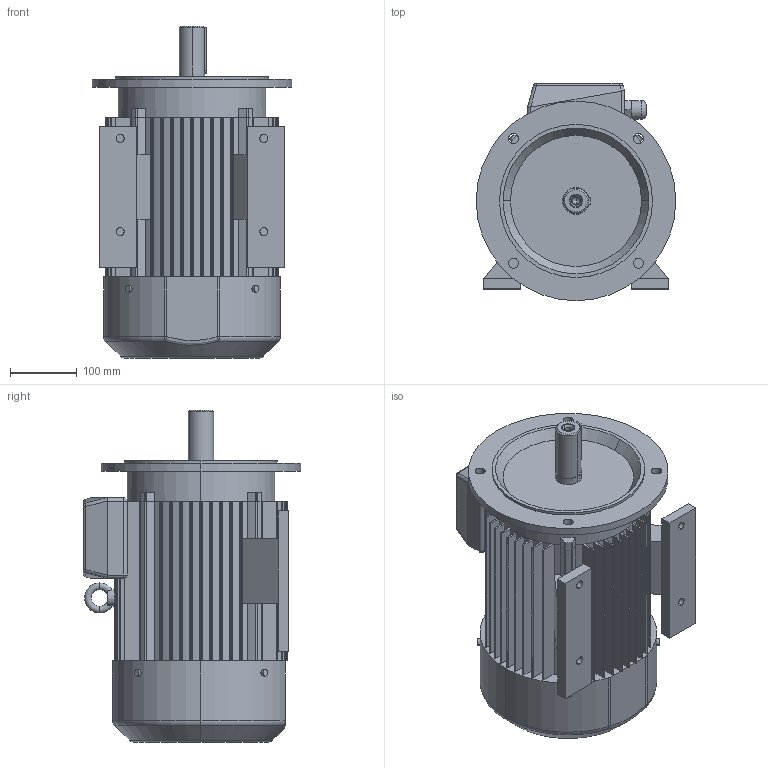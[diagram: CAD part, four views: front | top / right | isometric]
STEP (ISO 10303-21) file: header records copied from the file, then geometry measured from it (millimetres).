
FILE_DESCRIPTION (( 'STEP AP203' ), '1' );
FILE_NAME ('SLg 132S-2B-B35.STEP', '2010-02-09T12:40:08', ( 'INDUKTA' ), ( 'CANTONI MOTOR' ), 'SwSTEP 2.0', 'SolidWorks 2003064', '' );
FILE_SCHEMA (( 'CONFIG_CONTROL_DESIGN' ));
Length unit declared in the file: millimetre
Products named in the file (1): SLg 132S-2B-B35
Bounding box: 300 x 327 x 499 mm (x, y, z)
Volume: 20719528.2 mm3; surface area: 1151523.1 mm2
Topology: 14 solids, 14 shells, 524 faces, 1398 edges, 898 vertices
Faces by surface type: plane 253, cylinder 191, bspline 43, cone 14, torus 13, sphere 10
Entity records: 19945 total; most frequent: CARTESIAN_POINT 6861, ORIENTED_EDGE 2772, DIRECTION 2649, EDGE_CURVE 1386, AXIS2_PLACEMENT_3D 902, VERTEX_POINT 898, LINE 845, VECTOR 845
